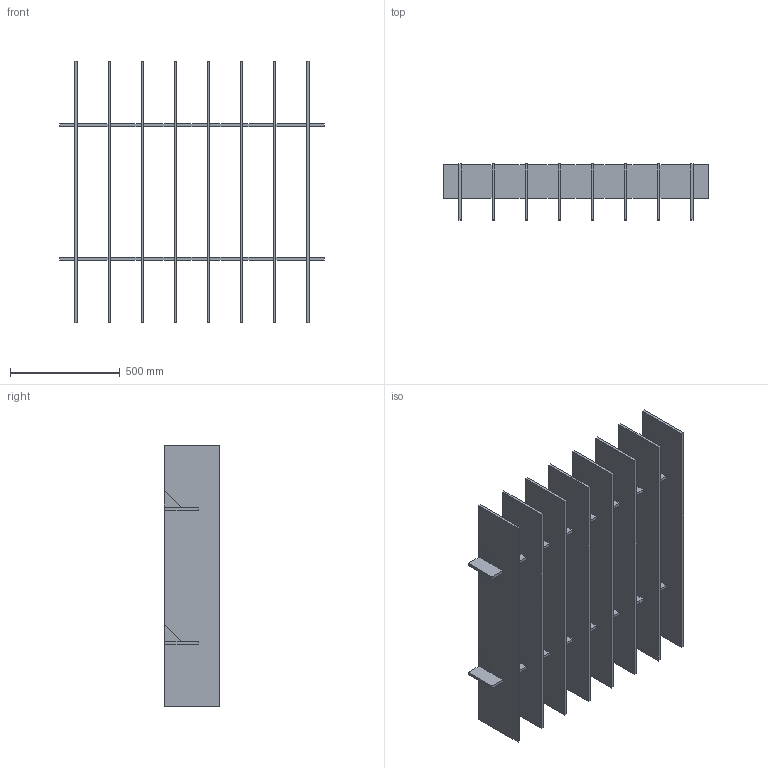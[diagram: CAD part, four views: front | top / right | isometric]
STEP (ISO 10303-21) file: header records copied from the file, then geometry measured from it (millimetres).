
FILE_DESCRIPTION(/* description */ (''),/* implementation_level */ '2;1');
FILE_NAME(/* name */ 'Y:\Design and Engineering\MaterialLogiq\CAD ASSETS\MASTER\BAFFLE\WEB ASSETS\PET BAFFLE_8FIN_4x4_10_FLAT.stp',/* time_stamp */ '2023-11-16T09:54:44-06:00',/* author */ ('Grant Baker'),/* organization */ (''),/* preprocessor_version */ 'ST-DEVELOPER v19',/* originating_system */ 'Autodesk Inventor 2023',/* authorisation */ '');
FILE_SCHEMA (('AUTOMOTIVE_DESIGN { 1 0 10303 214 3 1 1 }'));
Length unit declared in the file: inch
Products named in the file (3): PET BAFFLE_PARAMETRIC_11.02.2023; PET BAFFLE_BEAM; PET BAFFLE_48in_FIN_STANDARD
Assembly tree (10 placements, depth 2):
  PET BAFFLE_PARAMETRIC_11.02.2023
    PET BAFFLE_BEAM  x2
    PET BAFFLE_48in_FIN_STANDARD  x8
Bounding box: 1206.5 x 254 x 1193.8 mm (x, y, z)
Volume: 33867341.8 mm3; surface area: 5991368.2 mm2
Topology: 26 solids, 26 shells, 412 faces, 1080 edges, 720 vertices
Faces by surface type: plane 412
Entity records: 3423 total; most frequent: CARTESIAN_POINT 597, ORIENTED_EDGE 576, DIRECTION 522, LINE 288, VECTOR 288, EDGE_CURVE 288, VERTEX_POINT 192, AXIS2_PLACEMENT_3D 117
